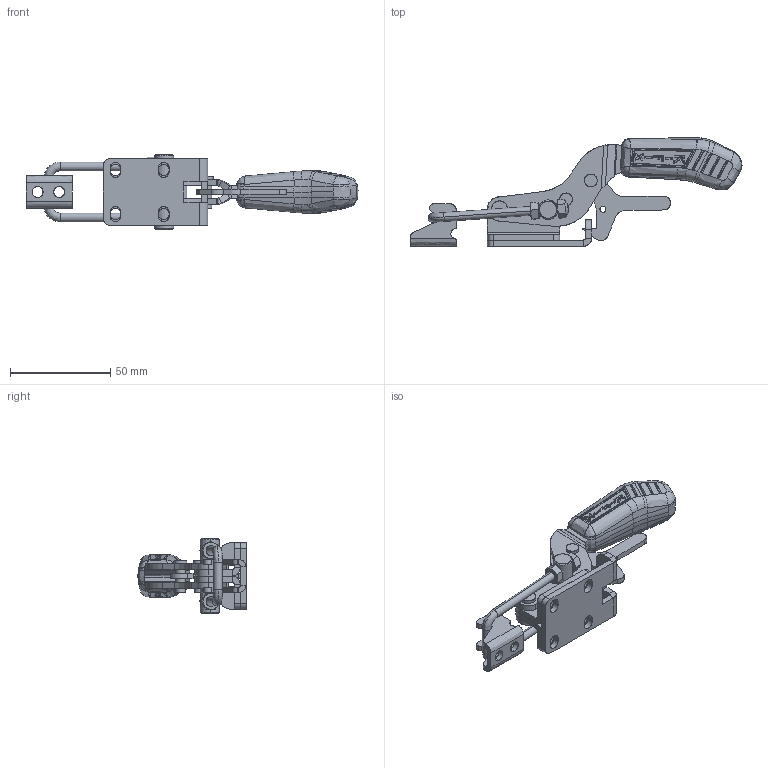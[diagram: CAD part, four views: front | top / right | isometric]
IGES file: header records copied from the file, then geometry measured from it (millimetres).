
Start section: SolidWorks IGES file using analytic representation for surfaces
Global section: file name: C:\Projetos\Grampos\KF-643\KF-643 DTR\KF-643 DTR.IGS; native system: SolidWorks 2015; preprocessor: SolidWorks 2015; author: Ricardo; date: 171005.090753; units: millimetre
Bounding box: 165.4 x 53.94 x 37 mm (x, y, z)
Surface area: 33625.3 mm2 (no closed solid volume)
Topology: 0 solids, 0 shells, 1021 faces, 10698 edges, 10639 vertices
Faces by surface type: bspline 571, revolution 450
